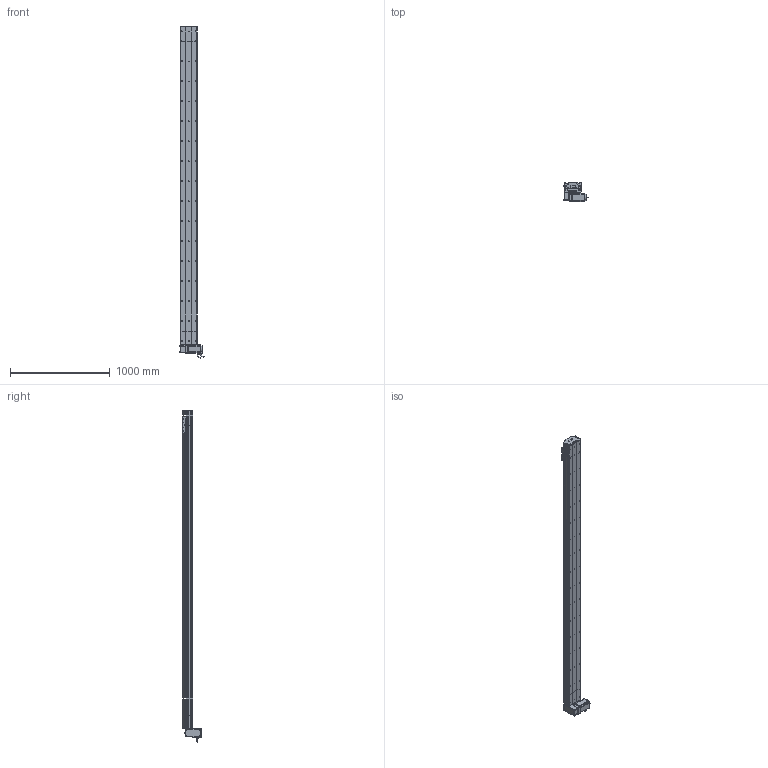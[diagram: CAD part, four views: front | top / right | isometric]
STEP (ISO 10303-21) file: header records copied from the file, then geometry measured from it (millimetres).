
FILE_DESCRIPTION (( 'STEP AP214' ), '1' );
FILE_NAME ('D17 TBH RU S2900.STEP', '2010-06-30T09:00:30', ( 'Christophe Gaillard' ), ( 'SGA' ), 'SwSTEP 2.0', 'SolidWorks 2010', '' );
FILE_SCHEMA (( 'AUTOMOTIVE_DESIGN' ));
Length unit declared in the file: millimetre
Products named in the file (40): couvercle D17B course L2900_Default; Couroie+ rail D17 Course 2900 ; course 2900 D17B_Default; corp D17B 2900_Default; chariot D17S_Default; vis M5 L25_Default; vis M5 L8 90°_Default; vis M5 L12_Default; guide D17; Chariot D17; Couroie tail D17B_Default; poulie tail_Default; couvercle D17B_Default; plaque de  bout tail D17B_Default; cache D17_Default; Arbre+rail head D17B; plaque de  bout head D17B RU_Default; couroie head D17_Default; poulie head_Default; vis M5 L5_Default; corps 90BLDC125A-640; avant 90BLDC125A-640; Moteur motionking 90BLDC125A-640; vis M5 L70_Default; Conecteur_Default; Conecteur2_Default; codeur 90BLDC125-640; Vis M5 L16-2_Default; vis M5 L16_Default; Plaque racord D17_Default; Tail D17B+100_Default; Renvoi RU_Default; cache arbre D17_Default; Rail D17B; tete d''axe poulie D17B; corp tail D17B+100_Default; Head RU D17B_Default; couvercle D17B head_Default; corpl head D17 _Default; D17 TBH RU S2900
Assembly tree (70 placements, depth 4):
  D17 TBH RU S2900
    Tail D17B+100_Default
      vis M5 L12_Default  x4
      vis M5 L8 90°_Default  x2
      vis M5 L25_Default  x2
      tete d''axe poulie D17B
      plaque de  bout tail D17B_Default
      poulie tail_Default
      Couroie tail D17B_Default
      couvercle D17B_Default
      Rail D17B
      corp tail D17B+100_Default
    chariot D17S_Default
      vis M5 L12_Default  x4
      Chariot D17
      guide D17  x2
    Head RU D17B_Default
      couroie head D17_Default
      vis M5 L12_Default  x8
      cache D17_Default  x2
      vis M5 L25_Default  x2
      vis M5 L70_Default  x4
      Vis M5 L16-2_Default  x4
      Moteur motionking 90BLDC125A-640
        codeur 90BLDC125-640
        corps 90BLDC125A-640
        Conecteur2_Default
        avant 90BLDC125A-640
        Conecteur_Default
      poulie head_Default
      corpl head D17 _Default
      cache arbre D17_Default
      couvercle D17B head_Default
      vis M5 L16_Default  x2
      vis M5 L5_Default  x4
      Renvoi RU_Default
      plaque de  bout head D17B RU_Default
      Plaque racord D17_Default
      Arbre+rail head D17B
    course 2900 D17B_Default
      couvercle D17B course L2900_Default
      corp D17B 2900_Default
      Couroie+ rail D17 Course 2900 
Bounding box: 245.2 x 188.65 x 3323.95 mm (x, y, z)
Volume: 18975811.8 mm3; surface area: 5524598.3 mm2
Topology: 94 solids, 94 shells, 2777 faces, 7103 edges, 4570 vertices
Faces by surface type: plane 1611, cylinder 853, bspline 136, cone 88, torus 85, sphere 4
Entity records: 87994 total; most frequent: CARTESIAN_POINT 25763, ORIENTED_EDGE 10978, DIRECTION 10390, EDGE_CURVE 5489, VERTEX_POINT 3594, LINE 3568, VECTOR 3568, AXIS2_PLACEMENT_3D 3411
